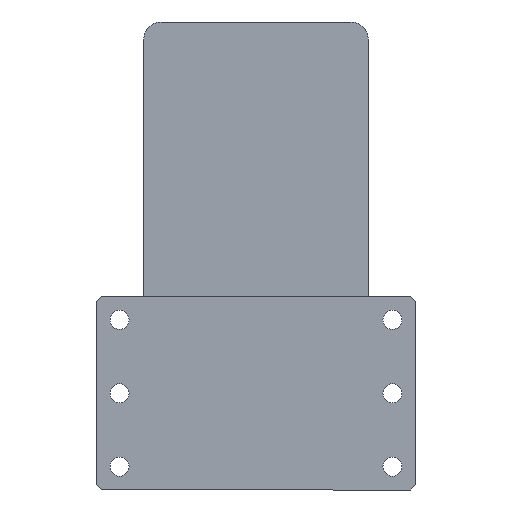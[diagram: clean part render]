
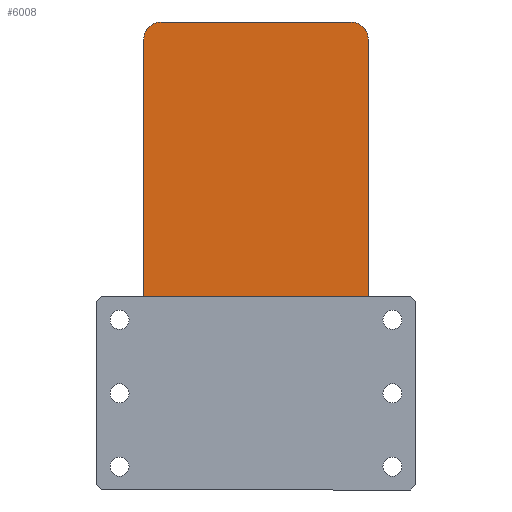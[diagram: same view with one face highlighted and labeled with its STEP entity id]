
A CAD part, left-side view. The second image highlights one B-rep face of the part: STEP entity #6008.
In plain terms, the highlighted planar face has unit normal (-1, 0, 0) as drawn and (0, 0, 1) by its records, which use the part's own axes.
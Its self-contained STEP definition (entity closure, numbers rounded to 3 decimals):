
#280 = CARTESIAN_POINT ( 'NONE',  ( -65., -125., 105. ) ) ;
#677 = VERTEX_POINT ( 'NONE', #11231 ) ;
#752 = CIRCLE ( 'NONE', #10085, 10. ) ;
#774 = ORIENTED_EDGE ( 'NONE', *, *, #1888, .T. ) ;
#780 = CIRCLE ( 'NONE', #7973, 10. ) ;
#857 = CIRCLE ( 'NONE', #5505, 10. ) ;
#879 = CIRCLE ( 'NONE', #6745, 10. ) ;
#961 = VECTOR ( 'NONE', #4536, 1000. ) ;
#972 = LINE ( 'NONE', #4550, #961 ) ;
#1252 = VECTOR ( 'NONE', #5124, 1000. ) ;
#1254 = ORIENTED_EDGE ( 'NONE', *, *, #1969, .T. ) ;
#1371 = LINE ( 'NONE', #5191, #1252 ) ;
#1455 = ORIENTED_EDGE ( 'NONE', *, *, #1471, .T. ) ;
#1471 = EDGE_CURVE ( 'NONE', #10844, #6431, #1952, .T. ) ;
#1502 = CARTESIAN_POINT ( 'NONE',  ( 65., 125., 105. ) ) ;
#1679 = VERTEX_POINT ( 'NONE', #6177 ) ;
#1783 = EDGE_CURVE ( 'NONE', #1679, #8899, #1371, .T. ) ;
#1888 = EDGE_CURVE ( 'NONE', #677, #7718, #972, .T. ) ;
#1912 = EDGE_CURVE ( 'NONE', #7718, #9150, #879, .T. ) ;
#1919 = VECTOR ( 'NONE', #7946, 1000. ) ;
#1950 = EDGE_CURVE ( 'NONE', #2203, #10844, #857, .T. ) ;
#1952 = LINE ( 'NONE', #7905, #1919 ) ;
#1969 = EDGE_CURVE ( 'NONE', #6431, #1679, #780, .T. ) ;
#1983 = EDGE_CURVE ( 'NONE', #8899, #677, #752, .T. ) ;
#2113 = FACE_OUTER_BOUND ( 'NONE', #2570, .T. ) ;
#2203 = VERTEX_POINT ( 'NONE', #1502 ) ;
#2570 = EDGE_LOOP ( 'NONE', ( #774, #10767, #3633, #3523, #1455, #1254, #5730, #4769 ) ) ;
#3523 = ORIENTED_EDGE ( 'NONE', *, *, #1950, .T. ) ;
#3633 = ORIENTED_EDGE ( 'NONE', *, *, #10225, .T. ) ;
#3637 = DIRECTION ( 'NONE',  ( 1., 0., 0. ) ) ;
#3649 = DIRECTION ( 'NONE',  ( 0., 0., 1. ) ) ;
#3664 = CARTESIAN_POINT ( 'NONE',  ( -55., -125., 105. ) ) ;
#3778 = DIRECTION ( 'NONE',  ( 1., 0., 0. ) ) ;
#3792 = DIRECTION ( 'NONE',  ( 0., 0., 1. ) ) ;
#3798 = CARTESIAN_POINT ( 'NONE',  ( -55., 125., 105. ) ) ;
#4145 = DIRECTION ( 'NONE',  ( 1., 0., 0. ) ) ;
#4170 = DIRECTION ( 'NONE',  ( 0., 0., 1. ) ) ;
#4191 = CARTESIAN_POINT ( 'NONE',  ( 55., 125., 105. ) ) ;
#4301 = DIRECTION ( 'NONE',  ( 1., 0., 0. ) ) ;
#4316 = DIRECTION ( 'NONE',  ( 0., 0., 1. ) ) ;
#4320 = CARTESIAN_POINT ( 'NONE',  ( 55., -125., 105. ) ) ;
#4352 = AXIS2_PLACEMENT_3D ( 'NONE', #11543, #11382, #11352 ) ;
#4536 = DIRECTION ( 'NONE',  ( 1., 0., 0. ) ) ;
#4550 = CARTESIAN_POINT ( 'NONE',  ( -65., -135., 105. ) ) ;
#4769 = ORIENTED_EDGE ( 'NONE', *, *, #1983, .T. ) ;
#5124 = DIRECTION ( 'NONE',  ( 0., -1., 0. ) ) ;
#5191 = CARTESIAN_POINT ( 'NONE',  ( -65., 135., 105. ) ) ;
#5505 = AXIS2_PLACEMENT_3D ( 'NONE', #4191, #4170, #4145 ) ;
#5730 = ORIENTED_EDGE ( 'NONE', *, *, #1783, .T. ) ;
#6008 = ADVANCED_FACE ( 'NONE', ( #2113 ), #11393, .T. ) ;
#6177 = CARTESIAN_POINT ( 'NONE',  ( -65., 125., 105. ) ) ;
#6431 = VERTEX_POINT ( 'NONE', #8998 ) ;
#6446 = DIRECTION ( 'NONE',  ( 0., 1., 0. ) ) ;
#6745 = AXIS2_PLACEMENT_3D ( 'NONE', #4320, #4316, #4301 ) ;
#7231 = VECTOR ( 'NONE', #6446, 1000. ) ;
#7248 = LINE ( 'NONE', #7338, #7231 ) ;
#7338 = CARTESIAN_POINT ( 'NONE',  ( 65., 135., 105. ) ) ;
#7718 = VERTEX_POINT ( 'NONE', #10175 ) ;
#7905 = CARTESIAN_POINT ( 'NONE',  ( -65., 135., 105. ) ) ;
#7946 = DIRECTION ( 'NONE',  ( -1., 0., 0. ) ) ;
#7973 = AXIS2_PLACEMENT_3D ( 'NONE', #3798, #3792, #3778 ) ;
#8899 = VERTEX_POINT ( 'NONE', #280 ) ;
#8998 = CARTESIAN_POINT ( 'NONE',  ( -55., 135., 105. ) ) ;
#9150 = VERTEX_POINT ( 'NONE', #11719 ) ;
#10085 = AXIS2_PLACEMENT_3D ( 'NONE', #3664, #3649, #3637 ) ;
#10127 = CARTESIAN_POINT ( 'NONE',  ( 55., 135., 105. ) ) ;
#10175 = CARTESIAN_POINT ( 'NONE',  ( 55., -135., 105. ) ) ;
#10225 = EDGE_CURVE ( 'NONE', #9150, #2203, #7248, .T. ) ;
#10767 = ORIENTED_EDGE ( 'NONE', *, *, #1912, .T. ) ;
#10844 = VERTEX_POINT ( 'NONE', #10127 ) ;
#11231 = CARTESIAN_POINT ( 'NONE',  ( -55., -135., 105. ) ) ;
#11352 = DIRECTION ( 'NONE',  ( 1., 0., 0. ) ) ;
#11382 = DIRECTION ( 'NONE',  ( 0., 0., 1. ) ) ;
#11393 = PLANE ( 'NONE',  #4352 ) ;
#11543 = CARTESIAN_POINT ( 'NONE',  ( 0., 0., 105. ) ) ;
#11719 = CARTESIAN_POINT ( 'NONE',  ( 65., -125., 105. ) ) ;
